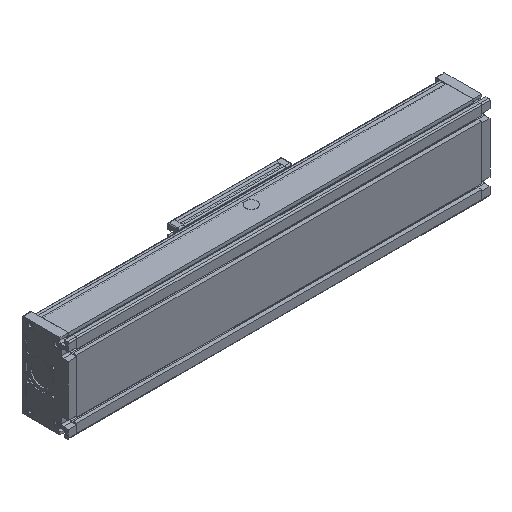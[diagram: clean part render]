
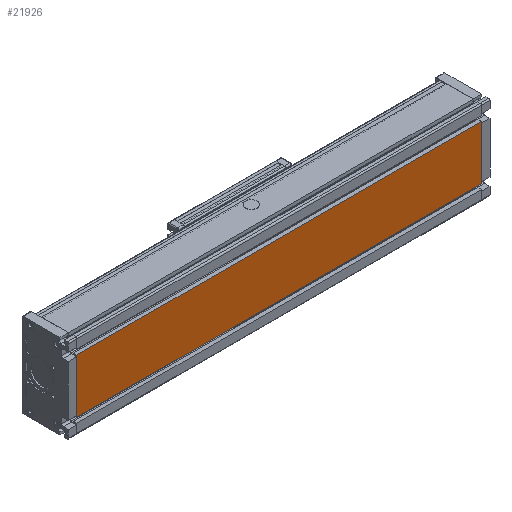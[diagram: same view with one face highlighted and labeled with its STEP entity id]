
A CAD part, isometric view. The second image highlights one B-rep face of the part: STEP entity #21926.
In plain terms, the highlighted planar face has unit normal (0, -1, 0).
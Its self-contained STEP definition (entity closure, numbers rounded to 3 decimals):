
#883 = CARTESIAN_POINT ( 'NONE',  ( 0., -50., 64. ) ) ;
#1065 = CARTESIAN_POINT ( 'NONE',  ( 960., -50., -64. ) ) ;
#1421 = PLANE ( 'NONE',  #22931 ) ;
#1539 = VECTOR ( 'NONE', #15519, 1000. ) ;
#1915 = CARTESIAN_POINT ( 'NONE',  ( 960., -50., 64. ) ) ;
#2093 = VERTEX_POINT ( 'NONE', #12977 ) ;
#2194 = LINE ( 'NONE', #1915, #16161 ) ;
#2291 = CARTESIAN_POINT ( 'NONE',  ( 960., -50., 64. ) ) ;
#3233 = DIRECTION ( 'NONE',  ( 0., 0., 1. ) ) ;
#4495 = ORIENTED_EDGE ( 'NONE', *, *, #10947, .F. ) ;
#5406 = CARTESIAN_POINT ( 'NONE',  ( 0., -50., 64. ) ) ;
#5606 = ORIENTED_EDGE ( 'NONE', *, *, #11265, .F. ) ;
#6144 = ORIENTED_EDGE ( 'NONE', *, *, #6649, .T. ) ;
#6413 = FACE_OUTER_BOUND ( 'NONE', #16638, .T. ) ;
#6567 = VECTOR ( 'NONE', #18231, 1000. ) ;
#6649 = EDGE_CURVE ( 'NONE', #21147, #9454, #21030, .T. ) ;
#8340 = EDGE_CURVE ( 'NONE', #9454, #11971, #20871, .T. ) ;
#9180 = CARTESIAN_POINT ( 'NONE',  ( 960., -50., 64. ) ) ;
#9454 = VERTEX_POINT ( 'NONE', #5406 ) ;
#10210 = LINE ( 'NONE', #1065, #15036 ) ;
#10947 = EDGE_CURVE ( 'NONE', #2093, #11971, #10210, .T. ) ;
#11265 = EDGE_CURVE ( 'NONE', #21147, #2093, #2194, .T. ) ;
#11971 = VERTEX_POINT ( 'NONE', #20864 ) ;
#12977 = CARTESIAN_POINT ( 'NONE',  ( 960., -50., -64. ) ) ;
#13819 = DIRECTION ( 'NONE',  ( -1., 0., 0. ) ) ;
#14083 = CARTESIAN_POINT ( 'NONE',  ( 960., -50., 64. ) ) ;
#14152 = DIRECTION ( 'NONE',  ( 0., 1., 0. ) ) ;
#15036 = VECTOR ( 'NONE', #13819, 1000. ) ;
#15519 = DIRECTION ( 'NONE',  ( 0., 0., -1. ) ) ;
#16161 = VECTOR ( 'NONE', #18295, 1000. ) ;
#16638 = EDGE_LOOP ( 'NONE', ( #17605, #4495, #5606, #6144 ) ) ;
#17605 = ORIENTED_EDGE ( 'NONE', *, *, #8340, .T. ) ;
#18231 = DIRECTION ( 'NONE',  ( -1., 0., 0. ) ) ;
#18295 = DIRECTION ( 'NONE',  ( 0., 0., -1. ) ) ;
#20864 = CARTESIAN_POINT ( 'NONE',  ( 0., -50., -64. ) ) ;
#20871 = LINE ( 'NONE', #883, #1539 ) ;
#21030 = LINE ( 'NONE', #9180, #6567 ) ;
#21147 = VERTEX_POINT ( 'NONE', #2291 ) ;
#21926 = ADVANCED_FACE ( 'NONE', ( #6413 ), #1421, .F. ) ;
#22931 = AXIS2_PLACEMENT_3D ( 'NONE', #14083, #14152, #3233 ) ;
